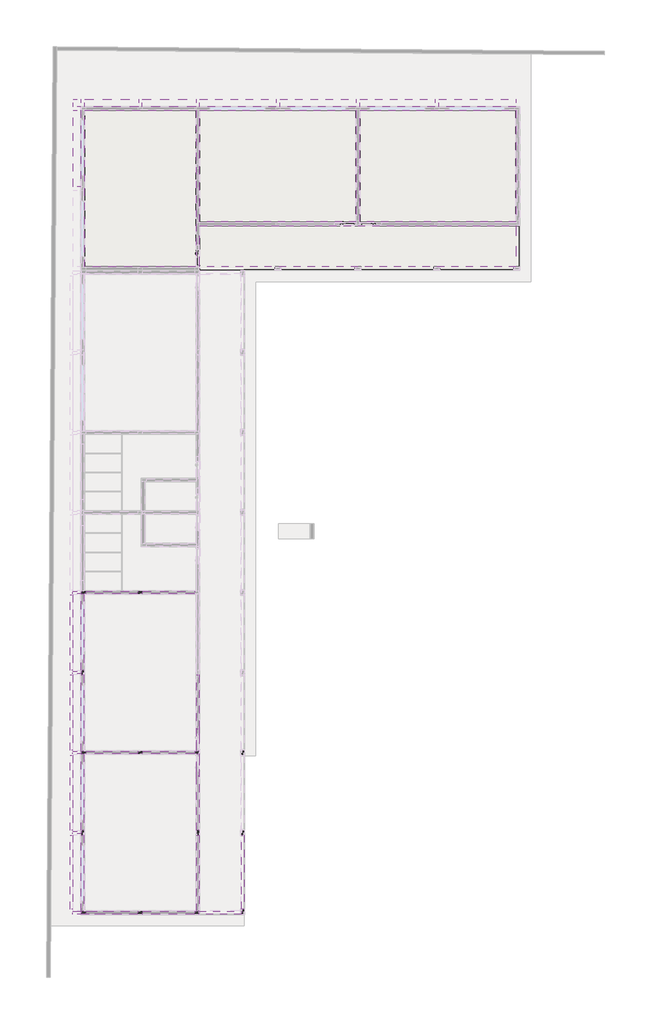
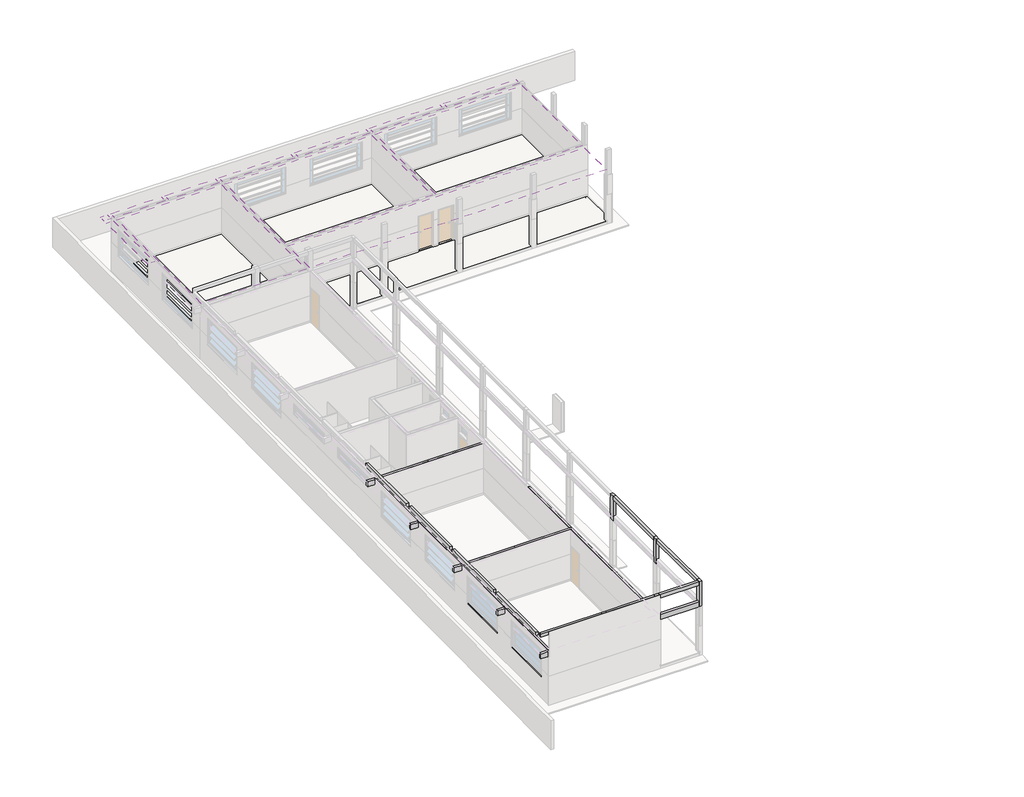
# One storey, part 8 of 11: 51 beams, 14 columns, 12 coverings, 11 slabs.
"""IFC4 building model written with IfcOpenShell, lengths in millimetres."""

from ifc_helpers import new_model, si_unit, frame, origin, place, context, project, spatial, polyline, outline, extrude, faceted_brep, transform, mapped, element, save
from components import beam_10x14x120_9fcbaa63

model = new_model("IFC4")

# Units and contexts
model_context = context("Model", 3, world=origin())
ifc_project = project(units=[si_unit("LENGTHUNIT", "METRE", prefix="MILLI")], contexts=[model_context])

# Site, building, storey
site = spatial("IfcSite", under=ifc_project)
building = spatial("IfcBuilding", under=site)
storey = spatial("IfcBuildingStorey", under=building, Name="NÍVEL 1", Elevation=43.4413576)

# Beams
placement = place(None, origin())
beam_10x14x120_shape = beam_10x14x120_9fcbaa63(model_context)
element("IfcBeam", 1, ObjectType="Verga-vedacao : 10x14x120", at=placement, inside=storey, context=model_context, shape_type="MappedRepresentation", body=[
    mapped(beam_10x14x120_shape, transform((9272.3574069, -18597.9280358, 2208.4413576), x_axis=(0.0, 1.0, 0.0), y_axis=(0.0, 0.0, 1.0), z_axis=(1.0, 0.0, 0.0))),
])
element("IfcBeam", 2, ObjectType="Verga-vedacao : 10x14x120", at=placement, inside=storey, context=model_context, shape_type="MappedRepresentation", body=[
    mapped(beam_10x14x120_shape, transform((9272.3574069, -17257.9280358, 2208.4413576), x_axis=(0.0, 1.0, 0.0), y_axis=(0.0, 0.0, 1.0), z_axis=(1.0, 0.0, 0.0))),
])
element("IfcBeam", 3, ObjectType="Viga Retangular de Concreto : VIGA BALDRAME 14X30-25MPA-CA50", at=placement, inside=storey, context=model_context, shape_type="SweptSolid", body=[
    extrude(outline(polyline([(3072.3574069, -13497.9280358), (2932.3574069, -13497.9280358), (2932.3574069, -9397.9280358), (3072.3574069, -9397.9280358), (3072.3574069, -13497.9280358)])), frame((0.0, 0.0, -256.5586424), z_axis=(0.0, 0.0, 1.0), x_axis=(1.0, 0.0, 0.0)), (0.0, 0.0, 1.0), 300.0),
])
element("IfcBeam", 4, ObjectType="Viga Retangular de Concreto : VIGA BALDRAME 14X30-25MPA-CA50", at=placement, inside=storey, context=model_context, shape_type="SweptSolid", body=[
    extrude(outline(polyline([(3072.3574069, -17857.9280358), (2932.3574069, -17857.9280358), (2932.3574069, -13757.9280358), (3072.3574069, -13757.9280358), (3072.3574069, -17857.9280358)])), frame((0.0, 0.0, -256.5586424), z_axis=(0.0, 0.0, 1.0), x_axis=(1.0, 0.0, 0.0)), (0.0, 0.0, 1.0), 300.0),
])
element("IfcBeam", 5, ObjectType="Viga Retangular de Concreto : VIGA BALDRAME 14X30-25MPA-CA50", at=placement, inside=storey, context=model_context, shape_type="SweptSolid", body=[
    extrude(outline(polyline([(3072.3574069, -22097.9280358), (2932.3574069, -22097.9280358), (2932.3574069, -17997.9280358), (3072.3574069, -17997.9280358), (3072.3574069, -22097.9280358)])), frame((0.0, 0.0, -256.5586424), z_axis=(0.0, 0.0, 1.0), x_axis=(1.0, 0.0, 0.0)), (0.0, 0.0, 1.0), 300.0),
])
element("IfcBeam", 6, ObjectType="Viga Retangular de Concreto : VIGA BALDRAME 14X30-25MPA-CA50", at=placement, inside=storey, context=model_context, shape_type="SweptSolid", body=[
    extrude(outline(polyline([(3072.3574069, -26457.9280358), (2932.3574069, -26457.9280358), (2932.3574069, -22357.9280358), (3072.3574069, -22357.9280358), (3072.3574069, -26457.9280358)])), frame((0.0, 0.0, -256.5586424), z_axis=(0.0, 0.0, 1.0), x_axis=(1.0, 0.0, 0.0)), (0.0, 0.0, 1.0), 300.0),
])
element("IfcBeam", 7, ObjectType="Viga Retangular de Concreto : VIGA BALDRAME 14X30-25MPA-CA50", at=placement, inside=storey, context=model_context, shape_type="SweptSolid", body=[
    extrude(outline(polyline([(5972.3574069, -26457.9280358), (5972.3574069, -26597.9280358), (3192.3574069, -26597.9280358), (3192.3574069, -26457.9280358), (5972.3574069, -26457.9280358)])), frame((0.0, 0.0, -256.5586424), z_axis=(0.0, 0.0, 1.0), x_axis=(1.0, 0.0, 0.0)), (0.0, 0.0, 1.0), 300.0),
])
element("IfcBeam", 8, ObjectType="Viga Retangular de Concreto : VIGA BALDRAME 14X30-25MPA-CA50", at=placement, inside=storey, context=model_context, shape_type="SweptSolid", body=[
    extrude(outline(polyline([(9012.3574069, -26457.9280358), (9012.3574069, -26597.9280358), (6232.3574069, -26597.9280358), (6232.3574069, -26457.9280358), (9012.3574069, -26457.9280358)])), frame((0.0, 0.0, -256.5586424), z_axis=(0.0, 0.0, 1.0), x_axis=(1.0, 0.0, 0.0)), (0.0, 0.0, 1.0), 300.0),
])
element("IfcBeam", 9, ObjectType="Viga Retangular de Concreto : VIGA BALDRAME 14X30-25MPA-CA50", at=placement, inside=storey, context=model_context, shape_type="SweptSolid", body=[
    extrude(outline(polyline([(11532.3574069, -26457.9280358), (11532.3574069, -26597.9280358), (9272.3574069, -26597.9280358), (9272.3574069, -26457.9280358), (11532.3574069, -26457.9280358)])), frame((0.0, 0.0, -276.5586424), z_axis=(0.0, 0.0, 1.0), x_axis=(1.0, 0.0, 0.0)), (0.0, 0.0, 1.0), 300.0),
])
element("IfcBeam", 10, ObjectType="Viga Retangular de Concreto : VIGA BALDRAME 14X30-25MPA-CA50", at=placement, inside=storey, context=model_context, shape_type="SweptSolid", body=[
    extrude(outline(polyline([(11532.3574069, -22357.9280358), (11672.3574069, -22357.9280358), (11672.3574069, -26337.9280358), (11532.3574069, -26337.9280358), (11532.3574069, -22357.9280358)])), frame((0.0, 0.0, -276.5586424), z_axis=(0.0, 0.0, 1.0), x_axis=(1.0, 0.0, 0.0)), (0.0, 0.0, 1.0), 300.0),
])
element("IfcBeam", 11, ObjectType="Viga Retangular de Concreto : VIGA BALDRAME 14X30-25MPA-CA50", at=placement, inside=storey, context=model_context, shape_type="SweptSolid", body=[
    extrude(outline(polyline([(11532.3574069, -18057.9280358), (11672.3574069, -18057.9280358), (11672.3574069, -22097.9280358), (11532.3574069, -22097.9280358), (11532.3574069, -18057.9280358)])), frame((0.0, 0.0, -276.5586424), z_axis=(0.0, 0.0, 1.0), x_axis=(1.0, 0.0, 0.0)), (0.0, 0.0, 1.0), 300.0),
])
element("IfcBeam", 12, ObjectType="Viga Retangular de Concreto : VIGA BALDRAME 14X30-25MPA-CA50", at=placement, inside=storey, context=model_context, shape_type="SweptSolid", body=[
    extrude(outline(polyline([(11532.3574069, -13757.9280358), (11672.3574069, -13757.9280358), (11672.3574069, -17797.9280358), (11532.3574069, -17797.9280358), (11532.3574069, -13757.9280358)])), frame((0.0, 0.0, -276.5586424), z_axis=(0.0, 0.0, 1.0), x_axis=(1.0, 0.0, 0.0)), (0.0, 0.0, 1.0), 300.0),
])
element("IfcBeam", 13, ObjectType="Viga Retangular de Concreto : VIGA BALDRAME 14X30-25MPA-CA50", at=placement, inside=storey, context=model_context, shape_type="SweptSolid", body=[
    extrude(outline(polyline([(9272.3574069, -17857.9280358), (9132.3574069, -17857.9280358), (9132.3574069, -13757.9280358), (9272.3574069, -13757.9280358), (9272.3574069, -17857.9280358)])), frame((0.0, 0.0, -256.5586424), z_axis=(0.0, 0.0, 1.0), x_axis=(1.0, 0.0, 0.0)), (0.0, 0.0, 1.0), 300.0),
])
element("IfcBeam", 14, ObjectType="Viga Retangular de Concreto : VIGA BALDRAME 14X30-25MPA-CA50", at=placement, inside=storey, context=model_context, shape_type="SweptSolid", body=[
    extrude(outline(polyline([(9272.3574069, -22097.9280358), (9132.3574069, -22097.9280358), (9132.3574069, -17997.9280358), (9272.3574069, -17997.9280358), (9272.3574069, -22097.9280358)])), frame((0.0, 0.0, -256.5586424), z_axis=(0.0, 0.0, 1.0), x_axis=(1.0, 0.0, 0.0)), (0.0, 0.0, 1.0), 300.0),
])
element("IfcBeam", 15, ObjectType="Viga Retangular de Concreto : VIGA BALDRAME 14X30-25MPA-CA50", at=placement, inside=storey, context=model_context, shape_type="SweptSolid", body=[
    extrude(outline(polyline([(9272.3574069, -26457.9280358), (9132.3574069, -26457.9280358), (9132.3574069, -22357.9280358), (9272.3574069, -22357.9280358), (9272.3574069, -26457.9280358)])), frame((0.0, 0.0, -256.5586424), z_axis=(0.0, 0.0, 1.0), x_axis=(1.0, 0.0, 0.0)), (0.0, 0.0, 1.0), 300.0),
])
element("IfcBeam", 16, ObjectType="Viga Retangular de Concreto : VIGA BALDRAME 14X30-25MPA-CA50", at=placement, inside=storey, context=model_context, shape_type="SweptSolid", body=[
    extrude(outline(polyline([(5972.3574069, -17857.9280358), (5972.3574069, -17997.9280358), (3192.3574069, -17997.9280358), (3192.3574069, -17857.9280358), (5972.3574069, -17857.9280358)])), frame((0.0, 0.0, -256.5586424), z_axis=(0.0, 0.0, 1.0), x_axis=(1.0, 0.0, 0.0)), (0.0, 0.0, 1.0), 300.0),
])
element("IfcBeam", 17, ObjectType="Viga Retangular de Concreto : VIGA BALDRAME 14X30-25MPA-CA50", at=placement, inside=storey, context=model_context, shape_type="SweptSolid", body=[
    extrude(outline(polyline([(9012.3574069, -17857.9280358), (9012.3574069, -17997.9280358), (6232.3574069, -17997.9280358), (6232.3574069, -17857.9280358), (9012.3574069, -17857.9280358)])), frame((0.0, 0.0, -256.5586424), z_axis=(0.0, 0.0, 1.0), x_axis=(1.0, 0.0, 0.0)), (0.0, 0.0, 1.0), 300.0),
])
element("IfcBeam", 18, ObjectType="Viga Retangular de Concreto : VIGA BALDRAME 14X30-25MPA-CA50", at=placement, inside=storey, context=model_context, shape_type="SweptSolid", body=[
    extrude(outline(polyline([(5972.3574069, -9257.9280358), (5972.3574069, -9397.9280358), (3192.3574069, -9397.9280358), (3192.3574069, -9257.9280358), (5972.3574069, -9257.9280358)])), frame((0.0, 0.0, -256.5586424), z_axis=(0.0, 0.0, 1.0), x_axis=(1.0, 0.0, 0.0)), (0.0, 0.0, 1.0), 300.0),
])
element("IfcBeam", 19, ObjectType="Viga Retangular de Concreto : VIGA BALDRAME 14X30-25MPA-CA50", at=placement, inside=storey, context=model_context, shape_type="SweptSolid", body=[
    extrude(outline(polyline([(9012.3574069, -9257.9280358), (9012.3574069, -9397.9280358), (6232.3574069, -9397.9280358), (6232.3574069, -9257.9280358), (9012.3574069, -9257.9280358)])), frame((0.0, 0.0, -256.5586424), z_axis=(0.0, 0.0, 1.0), x_axis=(1.0, 0.0, 0.0)), (0.0, 0.0, 1.0), 300.0),
])
element("IfcBeam", 20, ObjectType="Viga Retangular de Concreto : VIGA ESTRUTURAL 14X20-25MPA-CA50", at=placement, inside=storey, context=model_context, shape_type="SweptSolid", body=[
    extrude(outline(polyline([(2472.3574069, -13497.9280358), (2332.3574069, -13497.9280358), (2332.3574069, -9457.9280358), (2472.3574069, -9457.9280358), (2472.3574069, -13497.9280358)])), frame((0.0, 0.0, 4143.4413576), z_axis=(0.0, 0.0, 1.0), x_axis=(1.0, 0.0, 0.0)), (0.0, 0.0, 1.0), 200.0),
])
element("IfcBeam", 21, ObjectType="Viga Retangular de Concreto : VIGA ESTRUTURAL 14X20-25MPA-CA50", at=placement, inside=storey, context=model_context, shape_type="SweptSolid", body=[
    extrude(outline(polyline([(2472.3574069, -17797.9280358), (2332.3574069, -17797.9280358), (2332.3574069, -13757.9280358), (2472.3574069, -13757.9280358), (2472.3574069, -17797.9280358)])), frame((0.0, 0.0, 4143.4413576), z_axis=(0.0, 0.0, 1.0), x_axis=(1.0, 0.0, 0.0)), (0.0, 0.0, 1.0), 200.0),
])
element("IfcBeam", 22, ObjectType="Viga Retangular de Concreto : VIGA ESTRUTURAL 14X20-25MPA-CA50", at=placement, inside=storey, context=model_context, shape_type="SweptSolid", body=[
    extrude(outline(polyline([(2472.3574069, -22097.9280358), (2332.3574069, -22097.9280358), (2332.3574069, -18057.9280358), (2472.3574069, -18057.9280358), (2472.3574069, -22097.9280358)])), frame((0.0, 0.0, 4143.4413576), z_axis=(0.0, 0.0, 1.0), x_axis=(1.0, 0.0, 0.0)), (0.0, 0.0, 1.0), 200.0),
])
element("IfcBeam", 23, ObjectType="Viga Retangular de Concreto : VIGA ESTRUTURAL 14X20-25MPA-CA50", at=placement, inside=storey, context=model_context, shape_type="SweptSolid", body=[
    extrude(outline(polyline([(2472.3574069, -26337.9280358), (2332.3574069, -26337.9280358), (2332.3574069, -22357.9280358), (2472.3574069, -22357.9280358), (2472.3574069, -26337.9280358)])), frame((0.0, 0.0, 4143.4413576), z_axis=(0.0, 0.0, 1.0), x_axis=(1.0, 0.0, 0.0)), (0.0, 0.0, 1.0), 200.0),
])
element("IfcBeam", 24, ObjectType="Viga Retangular de Concreto : VIGA ESTRUTURAL 14X20-25MPA-CA50", at=placement, inside=storey, context=model_context, shape_type="SweptSolid", body=[
    extrude(outline(polyline([(2472.3574069, -26597.9280358), (2472.3574069, -26457.9280358), (5972.3574069, -26457.9280358), (5972.3574069, -26597.9280358), (2472.3574069, -26597.9280358)])), frame((0.0, 0.0, 4143.4413576), z_axis=(0.0, 0.0, 1.0), x_axis=(1.0, 0.0, 0.0)), (0.0, 0.0, 1.0), 200.0),
])
element("IfcBeam", 25, ObjectType="Viga Retangular de Concreto : VIGA ESTRUTURAL 14X20-25MPA-CA50", at=placement, inside=storey, context=model_context, shape_type="SweptSolid", body=[
    extrude(outline(polyline([(9012.3574069, -26457.9280358), (9012.3574069, -26597.9280358), (6232.3574069, -26597.9280358), (6232.3574069, -26457.9280358), (9012.3574069, -26457.9280358)])), frame((0.0, 0.0, 4143.4413576), z_axis=(0.0, 0.0, 1.0), x_axis=(1.0, 0.0, 0.0)), (0.0, 0.0, 1.0), 200.0),
])
element("IfcBeam", 26, ObjectType="Viga Retangular de Concreto : VIGA ESTRUTURAL 14X20-25MPA-CA50", at=placement, inside=storey, context=model_context, shape_type="SweptSolid", body=[
    extrude(outline(polyline([(9272.3574069, -26597.9280358), (9272.3574069, -26457.9280358), (11532.3574069, -26457.9280358), (11532.3574069, -26597.9280358), (9272.3574069, -26597.9280358)])), frame((0.0, 0.0, 4143.4413576), z_axis=(0.0, 0.0, 1.0), x_axis=(1.0, 0.0, 0.0)), (0.0, 0.0, 1.0), 200.0),
])
element("IfcBeam", 27, ObjectType="Viga Retangular de Concreto : VIGA ESTRUTURAL 14X20-25MPA-CA50", at=placement, inside=storey, context=model_context, shape_type="SweptSolid", body=[
    extrude(outline(polyline([(11532.3574069, -22357.9280358), (11672.3574069, -22357.9280358), (11672.3574069, -26337.9280358), (11532.3574069, -26337.9280358), (11532.3574069, -22357.9280358)])), frame((0.0, 0.0, 4143.4413576), z_axis=(0.0, 0.0, 1.0), x_axis=(1.0, 0.0, 0.0)), (0.0, 0.0, 1.0), 200.0),
])
element("IfcBeam", 28, ObjectType="Viga Retangular de Concreto : VIGA ESTRUTURAL 14X20-25MPA-CA50", at=placement, inside=storey, context=model_context, shape_type="SweptSolid", body=[
    extrude(outline(polyline([(11532.3574069, -18057.9280358), (11672.3574069, -18057.9280358), (11672.3574069, -22097.9280358), (11532.3574069, -22097.9280358), (11532.3574069, -18057.9280358)])), frame((0.0, 0.0, 4143.4413576), z_axis=(0.0, 0.0, 1.0), x_axis=(1.0, 0.0, 0.0)), (0.0, 0.0, 1.0), 200.0),
])
element("IfcBeam", 29, ObjectType="Viga Retangular de Concreto : VIGA ESTRUTURAL 14X20-25MPA-CA50", at=placement, inside=storey, context=model_context, shape_type="SweptSolid", body=[
    extrude(outline(polyline([(2932.3574069, -22357.9280358), (3072.3574069, -22357.9280358), (3072.3574069, -26457.9280358), (2932.3574069, -26457.9280358), (2932.3574069, -22357.9280358)])), frame((0.0, 0.0, 1003.4413576), z_axis=(0.0, 0.0, 1.0), x_axis=(1.0, 0.0, 0.0)), (0.0, 0.0, 1.0), 200.0),
])
element("IfcBeam", 30, ObjectType="Viga Retangular de Concreto : VIGA ESTRUTURAL 14X20-25MPA-CA50", at=placement, inside=storey, context=model_context, shape_type="SweptSolid", body=[
    extrude(outline(polyline([(2932.3574069, -17997.9280358), (3072.3574069, -17997.9280358), (3072.3574069, -22097.9280358), (2932.3574069, -22097.9280358), (2932.3574069, -17997.9280358)])), frame((0.0, 0.0, 1003.4413576), z_axis=(0.0, 0.0, 1.0), x_axis=(1.0, 0.0, 0.0)), (0.0, 0.0, 1.0), 200.0),
])
element("IfcBeam", 31, ObjectType="Viga Retangular de Concreto : VIGA ESTRUTURAL 14X20-25MPA-CA50", at=placement, inside=storey, context=model_context, shape_type="SweptSolid", body=[
    extrude(outline(polyline([(2932.3574069, -13757.9280358), (3072.3574069, -13757.9280358), (3072.3574069, -17857.9280358), (2932.3574069, -17857.9280358), (2932.3574069, -13757.9280358)])), frame((0.0, 0.0, 1003.4413576), z_axis=(0.0, 0.0, 1.0), x_axis=(1.0, 0.0, 0.0)), (0.0, 0.0, 1.0), 200.0),
])
element("IfcBeam", 32, ObjectType="Viga Retangular de Concreto : VIGA ESTRUTURAL 14X20-25MPA-CA50", at=placement, inside=storey, context=model_context, shape_type="SweptSolid", body=[
    extrude(outline(polyline([(2932.3574069, -9397.9280358), (3072.3574069, -9397.9280358), (3072.3574069, -13497.9280358), (2932.3574069, -13497.9280358), (2932.3574069, -9397.9280358)])), frame((0.0, 0.0, 1003.4413576), z_axis=(0.0, 0.0, 1.0), x_axis=(1.0, 0.0, 0.0)), (0.0, 0.0, 1.0), 200.0),
])
element("IfcBeam", 33, ObjectType="Viga Retangular de Concreto : VIGA ESTRUTURAL 14X30-25MPA-CA50", at=placement, inside=storey, context=model_context, shape_type="SweptSolid", body=[
    extrude(outline(polyline([(5972.3574069, -26457.9280358), (5972.3574069, -26597.9280358), (3192.3574069, -26597.9280358), (3192.3574069, -26457.9280358), (5972.3574069, -26457.9280358)])), frame((0.0, 0.0, 2843.4413576), z_axis=(0.0, 0.0, 1.0), x_axis=(1.0, 0.0, 0.0)), (0.0, 0.0, 1.0), 300.0),
])
element("IfcBeam", 34, ObjectType="Viga Retangular de Concreto : VIGA ESTRUTURAL 14X30-25MPA-CA50", at=placement, inside=storey, context=model_context, shape_type="SweptSolid", body=[
    extrude(outline(polyline([(9012.3574069, -26457.9280358), (9012.3574069, -26597.9280358), (6232.3574069, -26597.9280358), (6232.3574069, -26457.9280358), (9012.3574069, -26457.9280358)])), frame((0.0, 0.0, 2843.4413576), z_axis=(0.0, 0.0, 1.0), x_axis=(1.0, 0.0, 0.0)), (0.0, 0.0, 1.0), 300.0),
])
element("IfcBeam", 35, ObjectType="Viga Retangular de Concreto : VIGA ESTRUTURAL 14X30-25MPA-CA50", at=placement, inside=storey, context=model_context, shape_type="SweptSolid", body=[
    extrude(outline(polyline([(11532.3574069, -26457.9280358), (11532.3574069, -26597.9280358), (9272.3574069, -26597.9280358), (9272.3574069, -26457.9280358), (11532.3574069, -26457.9280358)])), frame((0.0, 0.0, 2843.4413576), z_axis=(0.0, 0.0, 1.0), x_axis=(1.0, 0.0, 0.0)), (0.0, 0.0, 1.0), 300.0),
])
element("IfcBeam", 36, ObjectType="Viga Retangular de Concreto : VIGA ESTRUTURAL 14X30-25MPA-CA50", at=placement, inside=storey, context=model_context, shape_type="SweptSolid", body=[
    extrude(outline(polyline([(5972.3574069, -17857.9280358), (5972.3574069, -17997.9280358), (3192.3574069, -17997.9280358), (3192.3574069, -17857.9280358), (5972.3574069, -17857.9280358)])), frame((0.0, 0.0, 2843.4413576), z_axis=(0.0, 0.0, 1.0), x_axis=(1.0, 0.0, 0.0)), (0.0, 0.0, 1.0), 300.0),
])
element("IfcBeam", 37, ObjectType="Viga Retangular de Concreto : VIGA ESTRUTURAL 14X30-25MPA-CA50", at=placement, inside=storey, context=model_context, shape_type="SweptSolid", body=[
    extrude(outline(polyline([(9012.3574069, -17857.9280358), (9012.3574069, -17997.9280358), (6232.3574069, -17997.9280358), (6232.3574069, -17857.9280358), (9012.3574069, -17857.9280358)])), frame((0.0, 0.0, 2843.4413576), z_axis=(0.0, 0.0, 1.0), x_axis=(1.0, 0.0, 0.0)), (0.0, 0.0, 1.0), 300.0),
])
element("IfcBeam", 38, ObjectType="Viga Retangular de Concreto : VIGA ESTRUTURAL 14X30-25MPA-CA50", at=placement, inside=storey, context=model_context, shape_type="SweptSolid", body=[
    extrude(outline(polyline([(5972.3574069, -9257.9280358), (5972.3574069, -9397.9280358), (3192.3574069, -9397.9280358), (3192.3574069, -9257.9280358), (5972.3574069, -9257.9280358)])), frame((0.0, 0.0, 2843.4413576), z_axis=(0.0, 0.0, 1.0), x_axis=(1.0, 0.0, 0.0)), (0.0, 0.0, 1.0), 300.0),
])
element("IfcBeam", 39, ObjectType="Viga Retangular de Concreto : VIGA ESTRUTURAL 14X30-25MPA-CA50", at=placement, inside=storey, context=model_context, shape_type="SweptSolid", body=[
    extrude(outline(polyline([(9012.3574069, -9257.9280358), (9012.3574069, -9397.9280358), (6232.3574069, -9397.9280358), (6232.3574069, -9257.9280358), (9012.3574069, -9257.9280358)])), frame((0.0, 0.0, 2843.4413576), z_axis=(0.0, 0.0, 1.0), x_axis=(1.0, 0.0, 0.0)), (0.0, 0.0, 1.0), 300.0),
])
element("IfcBeam", 40, ObjectType="Viga Retangular de Concreto : VIGA ESTRUTURAL 14X30-25MPA-CA50", at=placement, inside=storey, context=model_context, shape_type="SweptSolid", body=[
    extrude(outline(polyline([(9132.3574069, -22357.9280358), (9272.3574069, -22357.9280358), (9272.3574069, -26457.9280358), (9132.3574069, -26457.9280358), (9132.3574069, -22357.9280358)])), frame((0.0, 0.0, 2843.4413576), z_axis=(0.0, 0.0, 1.0), x_axis=(1.0, 0.0, 0.0)), (0.0, 0.0, 1.0), 300.0),
])
element("IfcBeam", 41, ObjectType="Viga Retangular de Concreto : VIGA ESTRUTURAL 14X30-25MPA-CA50", at=placement, inside=storey, context=model_context, shape_type="SweptSolid", body=[
    extrude(outline(polyline([(9132.3574069, -17997.9280358), (9272.3574069, -17997.9280358), (9272.3574069, -22097.9280358), (9132.3574069, -22097.9280358), (9132.3574069, -17997.9280358)])), frame((0.0, 0.0, 2843.4413576), z_axis=(0.0, 0.0, 1.0), x_axis=(1.0, 0.0, 0.0)), (0.0, 0.0, 1.0), 300.0),
])
element("IfcBeam", 42, ObjectType="Viga Retangular de Concreto : VIGA ESTRUTURAL 14X30-25MPA-CA50", at=placement, inside=storey, context=model_context, shape_type="SweptSolid", body=[
    extrude(outline(polyline([(9132.3574069, -13757.9280358), (9272.3574069, -13757.9280358), (9272.3574069, -17857.9280358), (9132.3574069, -17857.9280358), (9132.3574069, -13757.9280358)])), frame((0.0, 0.0, 2843.4413576), z_axis=(0.0, 0.0, 1.0), x_axis=(1.0, 0.0, 0.0)), (0.0, 0.0, 1.0), 300.0),
])
element("IfcBeam", 43, ObjectType="Viga Retangular de Concreto : VIGA ESTRUTURAL 14X30-25MPA-CA50", at=placement, inside=storey, context=model_context, shape_type="SweptSolid", body=[
    extrude(outline(polyline([(2932.3574069, -22357.9280358), (3072.3574069, -22357.9280358), (3072.3574069, -26457.9280358), (2932.3574069, -26457.9280358), (2932.3574069, -22357.9280358)])), frame((0.0, 0.0, 2843.4413576), z_axis=(0.0, 0.0, 1.0), x_axis=(1.0, 0.0, 0.0)), (0.0, 0.0, 1.0), 300.0),
])
element("IfcBeam", 44, ObjectType="Viga Retangular de Concreto : VIGA ESTRUTURAL 14X30-25MPA-CA50", at=placement, inside=storey, context=model_context, shape_type="SweptSolid", body=[
    extrude(outline(polyline([(2932.3574069, -17997.9280358), (3072.3574069, -17997.9280358), (3072.3574069, -22097.9280358), (2932.3574069, -22097.9280358), (2932.3574069, -17997.9280358)])), frame((0.0, 0.0, 2843.4413576), z_axis=(0.0, 0.0, 1.0), x_axis=(1.0, 0.0, 0.0)), (0.0, 0.0, 1.0), 300.0),
])
element("IfcBeam", 45, ObjectType="Viga Retangular de Concreto : VIGA ESTRUTURAL 14X30-25MPA-CA50", at=placement, inside=storey, context=model_context, shape_type="SweptSolid", body=[
    extrude(outline(polyline([(2932.3574069, -13757.9280358), (3072.3574069, -13757.9280358), (3072.3574069, -17857.9280358), (2932.3574069, -17857.9280358), (2932.3574069, -13757.9280358)])), frame((0.0, 0.0, 2843.4413576), z_axis=(0.0, 0.0, 1.0), x_axis=(1.0, 0.0, 0.0)), (0.0, 0.0, 1.0), 300.0),
])
element("IfcBeam", 46, ObjectType="Viga Retangular de Concreto : VIGA ESTRUTURAL 14X30-25MPA-CA50", at=placement, inside=storey, context=model_context, shape_type="SweptSolid", body=[
    extrude(outline(polyline([(2932.3574069, -9397.9280358), (3072.3574069, -9397.9280358), (3072.3574069, -13497.9280358), (2932.3574069, -13497.9280358), (2932.3574069, -9397.9280358)])), frame((0.0, 0.0, 2843.4413576), z_axis=(0.0, 0.0, 1.0), x_axis=(1.0, 0.0, 0.0)), (0.0, 0.0, 1.0), 300.0),
])
element("IfcBeam", 47, ObjectType="Viga Retangular de Concreto : VIGA ESTRUTURAL 14X30-25MPA-CA50", at=placement, inside=storey, context=model_context, shape_type="SweptSolid", body=[
    extrude(outline(polyline([(2932.3574069, -26457.9280358), (2932.3574069, -26597.9280358), (2472.3574069, -26597.9280358), (2472.3574069, -26457.9280358), (2932.3574069, -26457.9280358)])), frame((0.0, 0.0, 2843.4413576), z_axis=(0.0, 0.0, 1.0), x_axis=(1.0, 0.0, 0.0)), (0.0, 0.0, 1.0), 300.0),
])
element("IfcBeam", 48, ObjectType="Viga Retangular de Concreto : VIGA ESTRUTURAL 14X30-25MPA-CA50", at=placement, inside=storey, context=model_context, shape_type="SweptSolid", body=[
    extrude(outline(polyline([(2932.3574069, -22157.9280358), (2932.3574069, -22297.9280358), (2472.3574069, -22297.9280358), (2472.3574069, -22157.9280358), (2932.3574069, -22157.9280358)])), frame((0.0, 0.0, 2843.4413576), z_axis=(0.0, 0.0, 1.0), x_axis=(1.0, 0.0, 0.0)), (0.0, 0.0, 1.0), 300.0),
])
element("IfcBeam", 49, ObjectType="Viga Retangular de Concreto : VIGA ESTRUTURAL 14X30-25MPA-CA50", at=placement, inside=storey, context=model_context, shape_type="SweptSolid", body=[
    extrude(outline(polyline([(2932.3574069, -17857.9280358), (2932.3574069, -17997.9280358), (2472.3574069, -17997.9280358), (2472.3574069, -17857.9280358), (2932.3574069, -17857.9280358)])), frame((0.0, 0.0, 2843.4413576), z_axis=(0.0, 0.0, 1.0), x_axis=(1.0, 0.0, 0.0)), (0.0, 0.0, 1.0), 300.0),
])
element("IfcBeam", 50, ObjectType="Viga Retangular de Concreto : VIGA ESTRUTURAL 14X30-25MPA-CA50", at=placement, inside=storey, context=model_context, shape_type="SweptSolid", body=[
    extrude(outline(polyline([(2932.3574069, -13557.9280358), (2932.3574069, -13697.9280358), (2472.3574069, -13697.9280358), (2472.3574069, -13557.9280358), (2932.3574069, -13557.9280358)])), frame((0.0, 0.0, 2843.4413576), z_axis=(0.0, 0.0, 1.0), x_axis=(1.0, 0.0, 0.0)), (0.0, 0.0, 1.0), 300.0),
])
element("IfcBeam", 51, ObjectType="Viga Retangular de Concreto : VIGA ESTRUTURAL 14X30-25MPA-CA50", at=placement, inside=storey, context=model_context, shape_type="SweptSolid", body=[
    extrude(outline(polyline([(2932.3574069, -9257.9280358), (2932.3574069, -9397.9280358), (2472.3574069, -9397.9280358), (2472.3574069, -9257.9280358), (2932.3574069, -9257.9280358)])), frame((0.0, 0.0, 2843.4413576), z_axis=(0.0, 0.0, 1.0), x_axis=(1.0, 0.0, 0.0)), (0.0, 0.0, 1.0), 300.0),
])

# Columns
element("IfcColumn", 52, ObjectType="Pilar Retangular de Concreto : PILAR ESTRUTURAL 14X26-25MPA-CA50", at=placement, inside=storey, context=model_context, shape_type="SweptSolid", body=[
    extrude(outline(polyline([(3192.3574069, -9257.9280358), (3192.3574069, -9397.9280358), (2932.3574069, -9397.9280358), (2932.3574069, -9257.9280358), (3192.3574069, -9257.9280358)])), frame((0.0, 0.0, -356.5586424), z_axis=(0.0, 0.0, 1.0), x_axis=(1.0, 0.0, 0.0)), (0.0, 0.0, 1.0), 3500.0),
])
element("IfcColumn", 53, ObjectType="Pilar Retangular de Concreto : PILAR ESTRUTURAL 14X26-25MPA-CA50", at=placement, inside=storey, context=model_context, shape_type="Brep", body=[
    faceted_brep([(3192.3574069, -17857.9280358, -356.5586424), (3192.3574069, -17997.9280358, -356.5586424), (2932.3574069, -17997.9280358, -356.5586424), (2932.3574069, -17857.9280358, -356.5586424), (3192.3574069, -17857.9280358, 3143.4413576), (3192.3574069, -17997.9280358, 3143.4413576), (2932.3574069, -17997.9280358, 3143.4413576), (2932.3574069, -17997.9280358, 1003.4413576), (2932.3574069, -17997.9280358, 43.4413576), (2932.3574069, -17857.9280358, 3143.4413576)], [[[0, 1, 2, 3]], [[4, 5, 1, 0]], [[5, 6, 7, 8, 2, 1]], [[6, 9, 3, 2, 8, 7]], [[9, 4, 0, 3]], [[4, 9, 6, 5]]]),
])
element("IfcColumn", 54, ObjectType="Pilar Retangular de Concreto : PILAR ESTRUTURAL 14X26-25MPA-CA50", at=placement, inside=storey, context=model_context, shape_type="SweptSolid", body=[
    extrude(outline(polyline([(9272.3574069, -17857.9280358), (9272.3574069, -17997.9280358), (9012.3574069, -17997.9280358), (9012.3574069, -17857.9280358), (9272.3574069, -17857.9280358)])), frame((0.0, 0.0, -356.5586424), z_axis=(0.0, 0.0, 1.0), x_axis=(1.0, 0.0, 0.0)), (0.0, 0.0, 1.0), 3500.0),
])
element("IfcColumn", 55, ObjectType="Pilar Retangular de Concreto : PILAR ESTRUTURAL 14X26-25MPA-CA50", at=placement, inside=storey, context=model_context, shape_type="Brep", body=[
    faceted_brep([(3192.3574069, -26457.9280358, -356.5586424), (3192.3574069, -26597.9280358, -356.5586424), (2932.3574069, -26597.9280358, -356.5586424), (2932.3574069, -26457.9280358, -356.5586424), (3192.3574069, -26457.9280358, 3143.4413576), (3192.3574069, -26597.9280358, 3143.4413576), (2932.3574069, -26597.9280358, 3143.4413576), (2932.3574069, -26457.9280358, 3143.4413576), (2932.3574069, -26457.9280358, 1003.4413576), (2932.3574069, -26457.9280358, 43.4413576)], [[[0, 1, 2, 3]], [[4, 5, 1, 0]], [[5, 6, 2, 1]], [[6, 7, 8, 9, 3, 2]], [[7, 4, 0, 3, 9, 8]], [[4, 7, 6, 5]]]),
])
element("IfcColumn", 56, ObjectType="Pilar Retangular de Concreto : PILAR ESTRUTURAL 14X26-25MPA-CA50", at=placement, inside=storey, context=model_context, shape_type="SweptSolid", body=[
    extrude(outline(polyline([(9272.3574069, -26457.9280358), (9272.3574069, -26597.9280358), (9012.3574069, -26597.9280358), (9012.3574069, -26457.9280358), (9272.3574069, -26457.9280358)])), frame((0.0, 0.0, -356.5586424), z_axis=(0.0, 0.0, 1.0), x_axis=(1.0, 0.0, 0.0)), (0.0, 0.0, 1.0), 4700.0),
])
element("IfcColumn", 57, ObjectType="Pilar Retangular de Concreto : PILAR ESTRUTURAL 14X26-25MPA-CA50", at=placement, inside=storey, context=model_context, shape_type="SweptSolid", body=[
    extrude(outline(polyline([(6232.3574069, -9257.9280358), (6232.3574069, -9397.9280358), (5972.3574069, -9397.9280358), (5972.3574069, -9257.9280358), (6232.3574069, -9257.9280358)])), frame((0.0, 0.0, -356.5586424), z_axis=(0.0, 0.0, 1.0), x_axis=(1.0, 0.0, 0.0)), (0.0, 0.0, 1.0), 3500.0),
])
element("IfcColumn", 58, ObjectType="Pilar Retangular de Concreto : PILAR ESTRUTURAL 14X26-25MPA-CA50", at=placement, inside=storey, context=model_context, shape_type="SweptSolid", body=[
    extrude(outline(polyline([(6232.3574069, -17857.9280358), (6232.3574069, -17997.9280358), (5972.3574069, -17997.9280358), (5972.3574069, -17857.9280358), (6232.3574069, -17857.9280358)])), frame((0.0, 0.0, -356.5586424), z_axis=(0.0, 0.0, 1.0), x_axis=(1.0, 0.0, 0.0)), (0.0, 0.0, 1.0), 3500.0),
])
element("IfcColumn", 59, ObjectType="Pilar Retangular de Concreto : PILAR ESTRUTURAL 14X26-25MPA-CA50", at=placement, inside=storey, context=model_context, shape_type="SweptSolid", body=[
    extrude(outline(polyline([(6232.3574069, -26457.9280358), (6232.3574069, -26597.9280358), (5972.3574069, -26597.9280358), (5972.3574069, -26457.9280358), (6232.3574069, -26457.9280358)])), frame((0.0, 0.0, -356.5586424), z_axis=(0.0, 0.0, 1.0), x_axis=(1.0, 0.0, 0.0)), (0.0, 0.0, 1.0), 4700.0),
])
element("IfcColumn", 60, ObjectType="Pilar Retangular de Concreto : PILAR ESTRUTURAL 14X26-25MPA-CA50", at=placement, inside=storey, context=model_context, shape_type="SweptSolid", body=[
    extrude(outline(polyline([(2932.3574069, -13497.9280358), (3072.3574069, -13497.9280358), (3072.3574069, -13757.9280358), (2932.3574069, -13757.9280358), (2932.3574069, -13497.9280358)])), frame((0.0, 0.0, -356.5586424), z_axis=(0.0, 0.0, 1.0), x_axis=(1.0, 0.0, 0.0)), (0.0, 0.0, 1.0), 3500.0),
])
element("IfcColumn", 61, ObjectType="Pilar Retangular de Concreto : PILAR ESTRUTURAL 14X26-25MPA-CA50", at=placement, inside=storey, context=model_context, shape_type="Brep", body=[
    faceted_brep([(2932.3574069, -22097.9280358, -356.5586424), (3072.3574069, -22097.9280358, -356.5586424), (3072.3574069, -22357.9280358, -356.5586424), (2932.3574069, -22357.9280358, -356.5586424), (2932.3574069, -22097.9280358, 3143.4413576), (3072.3574069, -22097.9280358, 3143.4413576), (3072.3574069, -22097.9280358, 1003.4413576), (3072.3574069, -22097.9280358, 43.4413576), (2932.3574069, -22097.9280358, 43.4413576), (2932.3574069, -22097.9280358, 1003.4413576), (3072.3574069, -22357.9280358, 3143.4413576), (3072.3574069, -22357.9280358, 1003.4413576), (3072.3574069, -22357.9280358, 43.4413576), (2932.3574069, -22357.9280358, 3143.4413576), (2932.3574069, -22357.9280358, 1003.4413576), (2932.3574069, -22357.9280358, 43.4413576)], [[[0, 1, 2, 3]], [[4, 5, 6, 7, 1, 0, 8, 9]], [[5, 10, 11, 12, 2, 1, 7, 6]], [[10, 13, 14, 15, 3, 2, 12, 11]], [[13, 4, 9, 8, 0, 3, 15, 14]], [[4, 13, 10, 5]]]),
])
element("IfcColumn", 62, ObjectType="Pilar Retangular de Concreto : PILAR ESTRUTURAL 14X26-25MPA-CA50", at=placement, inside=storey, context=model_context, shape_type="SweptSolid", body=[
    extrude(outline(polyline([(9132.3574069, -22097.9280358), (9272.3574069, -22097.9280358), (9272.3574069, -22357.9280358), (9132.3574069, -22357.9280358), (9132.3574069, -22097.9280358)])), frame((0.0, 0.0, -356.5586424), z_axis=(0.0, 0.0, 1.0), x_axis=(1.0, 0.0, 0.0)), (0.0, 0.0, 1.0), 3500.0),
])
element("IfcColumn", 63, ObjectType="Pilar Retangular de Concreto : PILAR ESTRUTURAL 14X26-25MPA-CA50", at=placement, inside=storey, context=model_context, shape_type="Brep", body=[
    faceted_brep([(11532.3574069, -22097.9280358, -356.5586424), (11672.3574069, -22097.9280358, -356.5586424), (11672.3574069, -22357.9280358, -356.5586424), (11532.3574069, -22357.9280358, -356.5586424), (11532.3574069, -22097.9280358, 4343.4413576), (11672.3574069, -22097.9280358, 4343.4413576), (11672.3574069, -22097.9280358, 4143.4413576), (11672.3574069, -22097.9280358, 3143.4413576), (11672.3574069, -22097.9280358, 2843.4413576), (11532.3574069, -22097.9280358, 2843.4413576), (11532.3574069, -22097.9280358, 3143.4413576), (11532.3574069, -22097.9280358, 4143.4413576), (11672.3574069, -22357.9280358, 4343.4413576), (11672.3574069, -22357.9280358, 4143.4413576), (11672.3574069, -22357.9280358, 3143.4413576), (11672.3574069, -22357.9280358, 2843.4413576), (11532.3574069, -22357.9280358, 4343.4413576), (11532.3574069, -22357.9280358, 4143.4413576), (11532.3574069, -22357.9280358, 3143.4413576), (11532.3574069, -22357.9280358, 2843.4413576)], [[[0, 1, 2, 3]], [[4, 5, 6, 7, 8, 1, 0, 9, 10, 11]], [[5, 12, 13, 14, 15, 2, 1, 8, 7, 6]], [[12, 16, 17, 18, 19, 3, 2, 15, 14, 13]], [[16, 4, 11, 10, 9, 0, 3, 19, 18, 17]], [[4, 16, 12, 5]]]),
])
element("IfcColumn", 64, ObjectType="Pilar Retangular de Concreto : PILAR ESTRUTURAL 14X26-25MPA-CA50", at=placement, inside=storey, context=model_context, shape_type="Brep", body=[
    faceted_brep([(11532.3574069, -17797.9280358, -356.5586424), (11672.3574069, -17797.9280358, -356.5586424), (11672.3574069, -18057.9280358, -356.5586424), (11532.3574069, -18057.9280358, -356.5586424), (11532.3574069, -17797.9280358, 4343.4413576), (11672.3574069, -17797.9280358, 4343.4413576), (11672.3574069, -17797.9280358, 4143.4413576), (11672.3574069, -17797.9280358, 3143.4413576), (11672.3574069, -17797.9280358, 2843.4413576), (11532.3574069, -17797.9280358, 2843.4413576), (11532.3574069, -17797.9280358, 3143.4413576), (11532.3574069, -17797.9280358, 4143.4413576), (11672.3574069, -18057.9280358, 4343.4413576), (11672.3574069, -18057.9280358, 4143.4413576), (11672.3574069, -18057.9280358, 3143.4413576), (11672.3574069, -18057.9280358, 2843.4413576), (11532.3574069, -18057.9280358, 4343.4413576), (11532.3574069, -18057.9280358, 4143.4413576), (11532.3574069, -18057.9280358, 3143.4413576), (11532.3574069, -18057.9280358, 2843.4413576)], [[[0, 1, 2, 3]], [[4, 5, 6, 7, 8, 1, 0, 9, 10, 11]], [[5, 12, 13, 14, 15, 2, 1, 8, 7, 6]], [[12, 16, 17, 18, 19, 3, 2, 15, 14, 13]], [[16, 4, 11, 10, 9, 0, 3, 19, 18, 17]], [[4, 16, 12, 5]]]),
])
element("IfcColumn", 65, ObjectType="Pilar Retangular de Concreto : PILAR ESTRUTURAL 14X26-25MPA-CA50", at=placement, inside=storey, context=model_context, shape_type="Brep", body=[
    faceted_brep([(11532.3574069, -26337.9280358, -356.5586424), (11672.3574069, -26337.9280358, -356.5586424), (11672.3574069, -26597.9280358, -356.5586424), (11532.3574069, -26597.9280358, -356.5586424), (11532.3574069, -26337.9280358, 4343.4413576), (11672.3574069, -26337.9280358, 4343.4413576), (11672.3574069, -26337.9280358, 4143.4413576), (11532.3574069, -26337.9280358, 4143.4413576), (11672.3574069, -26597.9280358, 4343.4413576), (11532.3574069, -26597.9280358, 4343.4413576), (11532.3574069, -26597.9280358, 4143.4413576), (11532.3574069, -26457.9280358, 4343.4413576)], [[[0, 1, 2, 3]], [[4, 5, 6, 1, 0, 7]], [[5, 8, 2, 1, 6]], [[8, 9, 10, 3, 2]], [[9, 11, 4, 7, 0, 3, 10]], [[4, 11, 9, 8, 5]]]),
])

# Coverings
element("IfcCovering", 66, ObjectType="REVE.GSSO GESSO SARRAFEADO 1,0CM", at=placement, inside=storey, context=model_context, shape_type="SweptSolid", body=[
    extrude(outline(polyline([(3102.3574069, 16572.0719642), (9102.3574069, 16572.0719642), (9102.3574069, 8172.0719642), (3102.3574069, 8172.0719642), (3102.3574069, 16572.0719642)])), frame((0.0, 0.0, 3043.4413576), z_axis=(0.0, 0.0, 1.0), x_axis=(1.0, 0.0, 0.0)), (0.0, 0.0, 1.0), 5.0),
])
element("IfcCovering", 67, ObjectType="REVE.GSSO GESSO SARRAFEADO 1,0CM", at=placement, inside=storey, context=model_context, shape_type="SweptSolid", body=[
    extrude(outline(polyline([(9302.3574069, 10572.0719642), (9302.3574069, 16572.0719642), (17702.3574069, 16572.0719642), (17702.3574069, 10572.0719642), (9302.3574069, 10572.0719642)])), frame((0.0, 0.0, 3043.4413576), z_axis=(0.0, 0.0, 1.0), x_axis=(1.0, 0.0, 0.0)), (0.0, 0.0, 1.0), 5.0),
])
element("IfcCovering", 68, ObjectType="REVE.GSSO GESSO SARRAFEADO 1,0CM", at=placement, inside=storey, context=model_context, shape_type="SweptSolid", body=[
    extrude(outline(polyline([(17902.3574069, 16572.0719642), (26302.3574069, 16572.0719642), (26302.3574069, 10572.0719642), (17902.3574069, 10572.0719642), (17902.3574069, 16572.0719642)])), frame((0.0, 0.0, 3043.4413576), z_axis=(0.0, 0.0, 1.0), x_axis=(1.0, 0.0, 0.0)), (0.0, 0.0, 1.0), 5.0),
])
element("IfcCovering", 69, ObjectType="REVE.GSSO GESSO SARRAFEADO 1,0CM", at=placement, inside=storey, context=model_context, shape_type="SweptSolid", body=[
    extrude(outline(polyline([(26302.3574069, 10372.0719642), (26302.3574069, 8172.0719642), (9302.3574069, 8172.0719642), (9302.3574069, 10372.0719642), (26302.3574069, 10372.0719642)])), frame((0.0, 0.0, 3043.4413576), z_axis=(0.0, 0.0, 1.0), x_axis=(1.0, 0.0, 0.0)), (0.0, 0.0, 1.0), 5.0),
])
element("IfcCovering", 70, ObjectType="REVE.GSSO GESSO SARRAFEADO 1,0CM", at=placement, inside=storey, context=model_context, shape_type="SweptSolid", body=[
    extrude(outline(polyline([(2902.3574069, 17172.0719642), (2902.3574069, 16772.0719642), (2502.3574069, 16772.0719642), (2502.3574069, 17172.0719642), (2902.3574069, 17172.0719642)])), frame((0.0, 0.0, 3043.4413576), z_axis=(0.0, 0.0, 1.0), x_axis=(1.0, 0.0, 0.0)), (0.0, 0.0, 1.0), 5.0),
])
element("IfcCovering", 71, ObjectType="REVE.GSSO GESSO SARRAFEADO 1,0CM", at=placement, inside=storey, context=model_context, shape_type="SweptSolid", body=[
    extrude(outline(polyline([(6002.3574069, 17172.0719642), (6002.3574069, 16772.0719642), (3102.3574069, 16772.0719642), (3102.3574069, 17172.0719642), (6002.3574069, 17172.0719642)])), frame((0.0, 0.0, 3043.4413576), z_axis=(0.0, 0.0, 1.0), x_axis=(1.0, 0.0, 0.0)), (0.0, 0.0, 1.0), 5.0),
])
element("IfcCovering", 72, ObjectType="REVE.GSSO GESSO SARRAFEADO 1,0CM", at=placement, inside=storey, context=model_context, shape_type="SweptSolid", body=[
    extrude(outline(polyline([(9102.3574069, 17172.0719642), (9102.3574069, 16772.0719642), (6202.3574069, 16772.0719642), (6202.3574069, 17172.0719642), (9102.3574069, 17172.0719642)])), frame((0.0, 0.0, 3043.4413576), z_axis=(0.0, 0.0, 1.0), x_axis=(1.0, 0.0, 0.0)), (0.0, 0.0, 1.0), 5.0),
])
element("IfcCovering", 73, ObjectType="REVE.GSSO GESSO SARRAFEADO 1,0CM", at=placement, inside=storey, context=model_context, shape_type="SweptSolid", body=[
    extrude(outline(polyline([(13402.3574069, 17172.0719642), (13402.3574069, 16772.0719642), (9302.3574069, 16772.0719642), (9302.3574069, 17172.0719642), (13402.3574069, 17172.0719642)])), frame((0.0, 0.0, 3043.4413576), z_axis=(0.0, 0.0, 1.0), x_axis=(1.0, 0.0, 0.0)), (0.0, 0.0, 1.0), 5.0),
])
element("IfcCovering", 74, ObjectType="REVE.GSSO GESSO SARRAFEADO 1,0CM", at=placement, inside=storey, context=model_context, shape_type="SweptSolid", body=[
    extrude(outline(polyline([(17702.3574069, 17172.0719642), (17702.3574069, 16772.0719642), (13602.3574069, 16772.0719642), (13602.3574069, 17172.0719642), (17702.3574069, 17172.0719642)])), frame((0.0, 0.0, 3043.4413576), z_axis=(0.0, 0.0, 1.0), x_axis=(1.0, 0.0, 0.0)), (0.0, 0.0, 1.0), 5.0),
])
element("IfcCovering", 75, ObjectType="REVE.GSSO GESSO SARRAFEADO 1,0CM", at=placement, inside=storey, context=model_context, shape_type="SweptSolid", body=[
    extrude(outline(polyline([(21942.3574069, 17172.0719642), (21942.3574069, 16772.0719642), (17902.3574069, 16772.0719642), (17902.3574069, 17172.0719642), (21942.3574069, 17172.0719642)])), frame((0.0, 0.0, 3043.4413576), z_axis=(0.0, 0.0, 1.0), x_axis=(1.0, 0.0, 0.0)), (0.0, 0.0, 1.0), 5.0),
])
element("IfcCovering", 76, ObjectType="REVE.GSSO GESSO SARRAFEADO 1,0CM", at=placement, inside=storey, context=model_context, shape_type="SweptSolid", body=[
    extrude(outline(polyline([(26302.3574069, 17172.0719642), (26302.3574069, 16772.0719642), (22142.3574069, 16772.0719642), (22142.3574069, 17172.0719642), (26302.3574069, 17172.0719642)])), frame((0.0, 0.0, 3043.4413576), z_axis=(0.0, 0.0, 1.0), x_axis=(1.0, 0.0, 0.0)), (0.0, 0.0, 1.0), 5.0),
])
element("IfcCovering", 77, ObjectType="REVE.GSSO GESSO SARRAFEADO 1,0CM", at=placement, inside=storey, context=model_context, shape_type="SweptSolid", body=[
    extrude(outline(polyline([(2902.3574069, 16572.0719642), (2902.3574069, 12472.0719642), (2502.3574069, 12472.0719642), (2502.3574069, 16572.0719642), (2902.3574069, 16572.0719642)])), frame((0.0, 0.0, 3043.4413576), z_axis=(0.0, 0.0, 1.0), x_axis=(1.0, 0.0, 0.0)), (0.0, 0.0, 1.0), 5.0),
])

# Slabs
element("IfcSlab", 78, ObjectType="PISO.RGCP CONTRAPISO 3CM", at=placement, inside=storey, context=model_context, shape_type="SweptSolid", body=[
    extrude(outline(polyline([(9132.3574069, 16602.0719642), (9132.3574069, 8142.0719642), (3072.3574069, 8142.0719642), (3072.3574069, 16602.0719642), (9132.3574069, 16602.0719642)])), frame((0.0, 0.0, 13.4413576), z_axis=(0.0, 0.0, 1.0), x_axis=(1.0, 0.0, 0.0)), (0.0, 0.0, 1.0), 30.0),
])
element("IfcSlab", 79, ObjectType="PISO.RGCP CONTRAPISO 3CM", at=placement, inside=storey, context=model_context, shape_type="SweptSolid", body=[
    extrude(outline(polyline([(17732.3574069, 16602.0719642), (17732.3574069, 10542.0719642), (9272.3574069, 10542.0719642), (9272.3574069, 16602.0719642), (17732.3574069, 16602.0719642)])), frame((0.0, 0.0, 13.4413576), z_axis=(0.0, 0.0, 1.0), x_axis=(1.0, 0.0, 0.0)), (0.0, 0.0, 1.0), 30.0),
])
element("IfcSlab", 80, ObjectType="PISO.RGCP CONTRAPISO 3CM", at=placement, inside=storey, context=model_context, shape_type="SweptSolid", body=[
    extrude(outline(polyline([(26332.3574069, 16602.0719642), (26332.3574069, 10542.0719642), (17872.3574069, 10542.0719642), (17872.3574069, 16602.0719642), (26332.3574069, 16602.0719642)])), frame((0.0, 0.0, 13.4413576), z_axis=(0.0, 0.0, 1.0), x_axis=(1.0, 0.0, 0.0)), (0.0, 0.0, 1.0), 30.0),
])
element("IfcSlab", 81, ObjectType="PISO.RGCP CONTRAPISO 3CM", at=placement, inside=storey, context=model_context, shape_type="SweptSolid", body=[
    extrude(outline(polyline([(26332.3574069, 10402.0719642), (26332.3574069, 8142.0719642), (9272.3574069, 8142.0719642), (9272.3574069, 10402.0719642), (26332.3574069, 10402.0719642)])), frame((0.0, 0.0, -6.5586424), z_axis=(0.0, 0.0, 1.0), x_axis=(1.0, 0.0, 0.0)), (0.0, 0.0, 1.0), 30.0),
])
element("IfcSlab", 82, ObjectType="GRANILITE", at=placement, inside=storey, context=model_context, shape_type="SweptSolid", body=[
    extrude(outline(polyline([(26472.3574069, 10402.0719642), (26472.3574069, 8142.0719642), (26212.3574069, 8142.0719642), (26212.3574069, 8002.0719642), (22172.3574069, 8002.0719642), (22172.3574069, 8142.0719642), (21912.3574069, 8142.0719642), (21912.3574069, 8002.0719642), (17932.3574069, 8002.0719642), (17932.3574069, 8142.0719642), (17672.3574069, 8142.0719642), (17672.3574069, 8002.0719642), (13632.3574069, 8002.0719642), (13632.3574069, 8142.0719642), (13372.3574069, 8142.0719642), (13372.3574069, 8002.0719642), (9272.3574069, 8002.0719642), (9272.3574069, 10402.0719642), (26472.3574069, 10402.0719642)])), frame((0.0, 0.0, 23.4413576), z_axis=(0.0, 0.0, 1.0), x_axis=(1.0, 0.0, 0.0)), (0.0, 0.0, 1.0), 20.0),
])
element("IfcSlab", 83, ObjectType="GRANILITE", at=placement, inside=storey, context=model_context, shape_type="SweptSolid", body=[
    extrude(outline(polyline([(9132.3574069, 16602.0719642), (9132.3574069, 8142.0719642), (3072.3574069, 8142.0719642), (3072.3574069, 16602.0719642), (9132.3574069, 16602.0719642)])), frame((0.0, 0.0, 43.4413576), z_axis=(0.0, 0.0, 1.0), x_axis=(1.0, 0.0, 0.0)), (0.0, 0.0, 1.0), 20.0),
])
element("IfcSlab", 84, ObjectType="GRANILITE", at=placement, inside=storey, context=model_context, shape_type="SweptSolid", body=[
    extrude(outline(polyline([(17732.3574069, 10542.0719642), (9272.3574069, 10542.0719642), (9272.3574069, 16602.0719642), (17732.3574069, 16602.0719642), (17732.3574069, 10542.0719642)])), frame((0.0, 0.0, 43.4413576), z_axis=(0.0, 0.0, 1.0), x_axis=(1.0, 0.0, 0.0)), (0.0, 0.0, 1.0), 20.0),
])
element("IfcSlab", 85, ObjectType="GRANILITE", at=placement, inside=storey, context=model_context, shape_type="SweptSolid", body=[
    extrude(outline(polyline([(26332.3574069, 16602.0719642), (26332.3574069, 10542.0719642), (17872.3574069, 10542.0719642), (17872.3574069, 16602.0719642), (26332.3574069, 16602.0719642)])), frame((0.0, 0.0, 43.4413576), z_axis=(0.0, 0.0, 1.0), x_axis=(1.0, 0.0, 0.0)), (0.0, 0.0, 1.0), 20.0),
])
element("IfcSlab", 86, ObjectType="SOLEIRA EM GRANITO CINZA ANDORINHA", at=placement, inside=storey, context=model_context, shape_type="SweptSolid", body=[
    extrude(outline(polyline([(9272.3574069, 9062.0719642), (9272.3574069, 8222.0719642), (9132.3574069, 8222.0719642), (9132.3574069, 9062.0719642), (9272.3574069, 9062.0719642)])), frame((0.0, 0.0, 43.4413576), z_axis=(0.0, 0.0, 1.0), x_axis=(1.0, 0.0, 0.0)), (0.0, 0.0, 1.0), 20.0),
])
element("IfcSlab", 87, ObjectType="SOLEIRA EM GRANITO CINZA ANDORINHA", at=placement, inside=storey, context=model_context, shape_type="SweptSolid", body=[
    extrude(outline(polyline([(16812.3574069, 10542.0719642), (17652.3574069, 10542.0719642), (17652.3574069, 10402.0719642), (16812.3574069, 10402.0719642), (16812.3574069, 10542.0719642)])), frame((0.0, 0.0, 43.4413576), z_axis=(0.0, 0.0, 1.0), x_axis=(1.0, 0.0, 0.0)), (0.0, 0.0, 1.0), 20.0),
])
element("IfcSlab", 88, ObjectType="SOLEIRA EM GRANITO CINZA ANDORINHA", at=placement, inside=storey, context=model_context, shape_type="SweptSolid", body=[
    extrude(outline(polyline([(17952.3574069, 10542.0719642), (18792.3574069, 10542.0719642), (18792.3574069, 10402.0719642), (17952.3574069, 10402.0719642), (17952.3574069, 10542.0719642)])), frame((0.0, 0.0, 43.4413576), z_axis=(0.0, 0.0, 1.0), x_axis=(1.0, 0.0, 0.0)), (0.0, 0.0, 1.0), 20.0),
])

save(model, "model.ifc")
